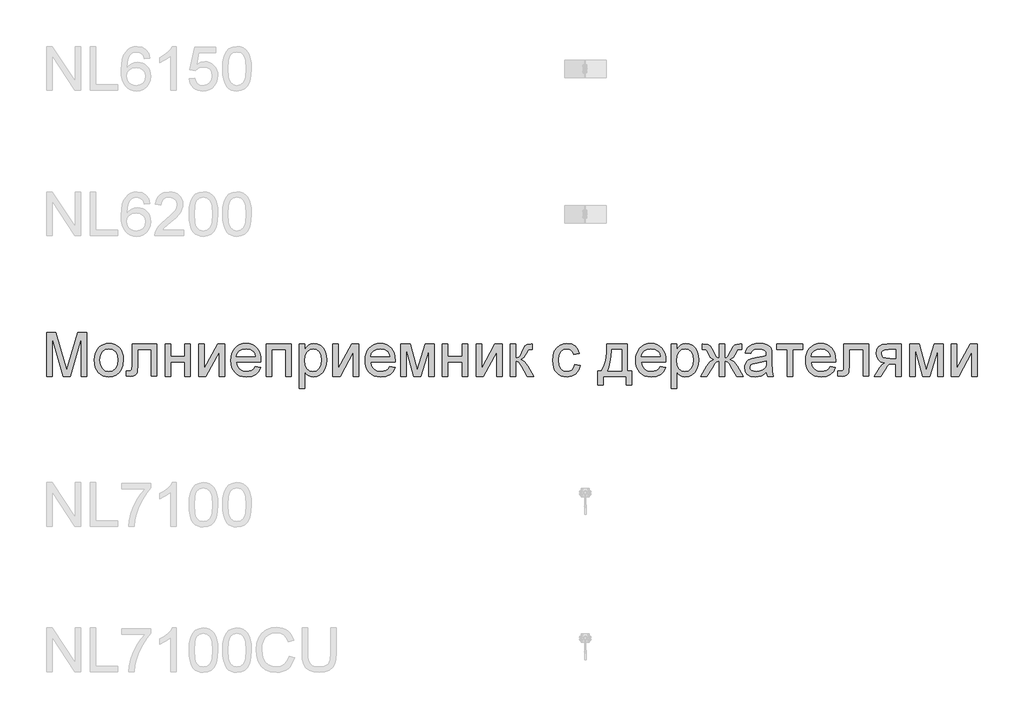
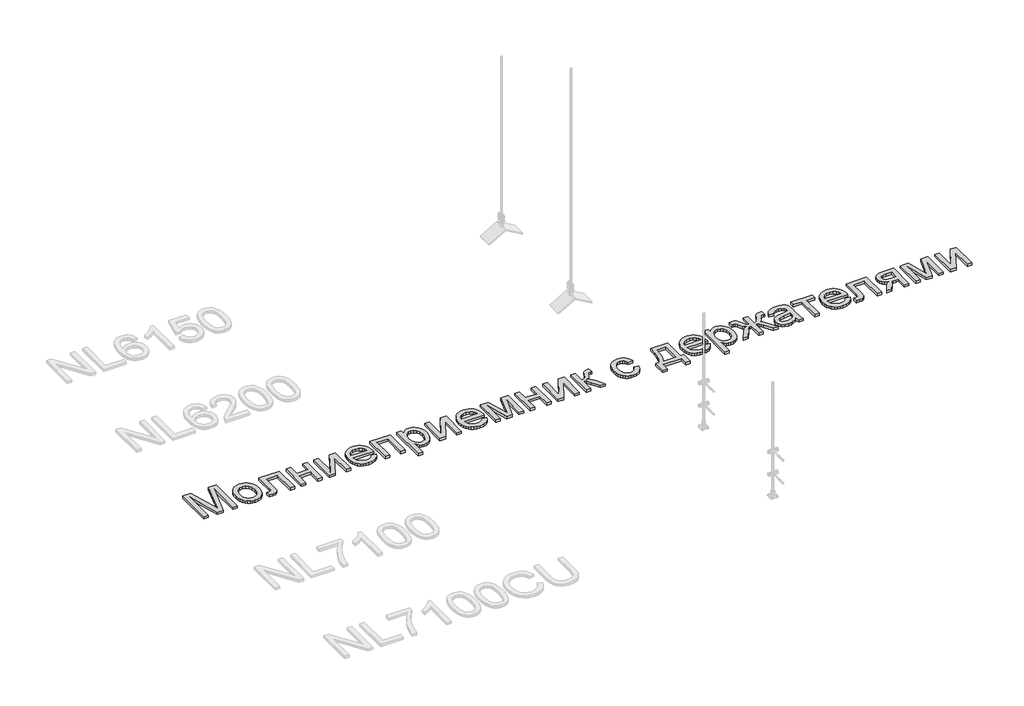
# One storey, part 68 of 124: 1 proxy.
"""IFC4 building model written with IfcOpenShell, lengths in millimetres."""

from ifc_helpers import new_model, si_unit, origin, origin_with_axes, place, context, project, spatial, polyline, outline, extrude, element, save

model = new_model("IFC4")

# Units and contexts
model_context = context("Model", 3, world=origin())
ifc_project = project(units=[si_unit("LENGTHUNIT", "METRE", prefix="MILLI")], contexts=[model_context])

# Site, building, storey
site = spatial("IfcSite", under=ifc_project)
building = spatial("IfcBuilding", under=site)
storey = spatial("IfcBuildingStorey", under=building, Name="Этаж 01", Elevation=0.0)

# Proxy
placement = place(None, origin())
element("IfcBuildingElementProxy", 1, Name="300", ObjectType="300", at=placement, inside=storey, context=model_context, shape_type="SweptSolid", body=[
    extrude(outline(polyline([(22499.8220677, -55074.498362), (22499.8220677, -54773.1294316), (22564.6428752, -54773.1294316), (22626.2998976, -54985.5444956), (22638.7343091, -55029.9110642), (22652.1987901, -54981.8656756), (22712.8257429, -54773.1294316), (22777.6465505, -54773.1294316), (22777.6465505, -55074.498362), (22739.9754341, -55074.498362), (22739.9754341, -54810.8005479), (22664.2653195, -55074.498362), (22613.2032986, -55074.498362), (22537.493184, -54810.8005479), (22537.493184, -55074.498362), (22499.8220677, -55074.498362)])), origin_with_axes(), (0.0, 0.0, 1.0), 20.0),
    extrude(outline(polyline([(22829.4443354, -54963.8394579), (22831.4814819, -54935.1768519), (22837.5929216, -54910.4781745), (22847.7786543, -54889.7434255), (22862.0386801, -54872.972605), (22876.395275, -54862.2534434), (22892.2417919, -54854.5968994), (22909.578231, -54850.002973), (22928.4045921, -54848.4716642), (22949.1876255, -54850.336366), (22967.9794977, -54855.9304716), (22984.7802086, -54865.2539809), (22999.5897581, -54878.306894), (23011.6769809, -54894.6477523), (23020.3107115, -54913.8350977), (23025.4909499, -54935.8689299), (23027.217696, -54960.7492491), (23024.1642754, -54998.8066415), (23015.0040137, -55027.7773486), (23000.0036254, -55049.4731893), (22979.4298248, -55065.7059823), (22954.9932633, -55075.8319342), (22928.4045921, -55079.2072515), (22907.318056, -55077.3494475), (22888.3514398, -55071.7760352), (22871.5047437, -55062.4870149), (22856.7779676, -55049.4823863), (22844.8195035, -55032.9828788), (22836.2777434, -55013.2092216), (22831.1526874, -54990.1614146), (22829.4443354, -54963.8394579)]), holes=[polyline([(22867.1154517, -54963.7658815), (22871.4748533, -54997.8593454), (22884.5530582, -55022.1487541), (22904.234745, -55036.6892899), (22928.4045921, -55041.5361352), (22952.4640746, -55036.6616988), (22972.1089731, -55022.0383895), (22985.187178, -54997.427084), (22989.5465797, -54962.5886591), (22985.1595869, -54929.4884766), (22971.9986085, -54905.5301616), (22952.3261188, -54890.9896258), (22928.4045921, -54886.1427805), (22904.234745, -54890.9712317), (22884.5530582, -54905.4565852), (22871.4748533, -54929.6908117), (22867.1154517, -54963.7658815)])]), origin_with_axes(), (0.0, 0.0, 1.0), 20.0),
    extrude(outline(polyline([(23088.43326, -54853.1805537), (23257.9532834, -54853.1805537), (23257.9532834, -55074.2776328), (23220.282167, -55074.2776328), (23220.282167, -54890.85167), (23126.1043763, -54890.85167), (23126.1043763, -54996.4338026), (23123.5659905, -55045.1413788), (23118.8111157, -55056.1686416), (23109.6232629, -55065.7059823), (23095.6805353, -55072.3002671), (23076.6610361, -55074.498362), (23046.0532541, -55072.5853756), (23046.0532541, -55036.8272457), (23062.9022495, -55036.8272457), (23079.9351859, -55034.5095891), (23086.7410028, -55027.1519492), (23088.43326, -54994.3000871), (23088.43326, -54853.1805537)])), origin_with_axes(), (0.0, 0.0, 1.0), 20.0),
    extrude(outline(polyline([(23314.4599578, -54853.1805537), (23352.1310741, -54853.1805537), (23352.1310741, -54937.9405654), (23451.0177544, -54937.9405654), (23451.0177544, -54853.1805537), (23488.6888707, -54853.1805537), (23488.6888707, -55074.498362), (23451.0177544, -55074.498362), (23451.0177544, -54975.6116817), (23352.1310741, -54975.6116817), (23352.1310741, -55074.498362), (23314.4599578, -55074.498362), (23314.4599578, -54853.1805537)])), origin_with_axes(), (0.0, 0.0, 1.0), 20.0),
    extrude(outline(polyline([(23545.1955452, -54853.1805537), (23582.8666615, -54853.1805537), (23582.8666615, -55021.9648131), (23675.4257715, -54853.1805537), (23724.1333476, -54853.1805537), (23724.1333476, -55074.498362), (23686.4622313, -55074.498362), (23686.4622313, -54906.7441722), (23594.4917325, -55074.498362), (23545.1955452, -55074.498362), (23545.1955452, -54853.1805537)])), origin_with_axes(), (0.0, 0.0, 1.0), 20.0),
    extrude(outline(polyline([(23935.5919185, -55008.5739085), (23972.5272708, -55013.282798), (23959.2191396, -55041.1130709), (23937.9831514, -55061.9167978), (23909.2975529, -55074.8846381), (23873.6405905, -55079.2072515), (23850.2662882, -55077.3425497), (23829.4395688, -55071.7484441), (23811.1604321, -55062.4249348), (23795.4288783, -55049.3720217), (23782.7783362, -55032.9529884), (23773.7422347, -55013.5311184), (23768.3205738, -54991.1064115), (23766.5133535, -54965.6788678), (23768.3389679, -54939.3891007), (23773.8158111, -54916.2171336), (23782.9438831, -54896.1629663), (23795.7231839, -54879.226599), (23811.413351, -54865.771315), (23829.2740219, -54856.1603979), (23849.3051965, -54850.3938476), (23871.5068749, -54848.4716642), (23892.9934827, -54850.3892491), (23912.4245498, -54856.1420038), (23929.8000763, -54865.7299283), (23945.1200621, -54879.1530226), (23957.6257507, -54896.0526017), (23966.5583854, -54916.0699808), (23971.9179662, -54939.2051598), (23973.7044932, -54965.4581386), (23973.483764, -54975.6116817), (23804.1844698, -54975.6116817), (23810.7051782, -55003.8098366), (23825.8527193, -55024.5399871), (23847.7141069, -55037.2870982), (23874.3763545, -55041.5361352), (23894.4259232, -55039.5679666), (23911.3117068, -55033.6634605), (23925.0337052, -55023.4547352), (23935.5919185, -55008.5739085)]), holes=[polyline([(23804.1844698, -54937.9405654), (23936.0333769, -54937.9405654), (23930.9382112, -54918.0381495), (23920.9502151, -54903.8011162), (23898.9876599, -54890.5573644), (23871.3597221, -54886.1427805), (23845.9666674, -54889.6652506), (23824.9698025, -54900.2326609), (23810.3740844, -54916.7045772), (23804.1844698, -54937.9405654)])]), origin_with_axes(), (0.0, 0.0, 1.0), 20.0),
    extrude(outline(polyline([(24011.3756095, -54853.1805537), (24180.8956329, -54853.1805537), (24180.8956329, -55074.498362), (24143.2245165, -55074.498362), (24143.2245165, -54890.85167), (24049.0467258, -54890.85167), (24049.0467258, -55074.498362), (24011.3756095, -55074.498362), (24011.3756095, -54853.1805537)])), origin_with_axes(), (0.0, 0.0, 1.0), 20.0),
    extrude(outline(polyline([(24237.4023073, -55159.2583737), (24237.4023073, -54853.1805537), (24275.0734236, -54853.1805537), (24275.0734236, -54890.115906), (24287.3606823, -54871.8965502), (24301.1194689, -54858.8827246), (24317.1591239, -54851.0744293), (24336.2889876, -54848.4716642), (24361.7648158, -54852.1136959), (24384.0400706, -54863.0397912), (24402.176653, -54880.5877623), (24415.2364638, -54904.0954218), (24423.1275326, -54931.8521184), (24425.7578888, -54962.1472007), (24422.7872417, -54994.3644664), (24413.8753004, -55023.1788237), (24399.3071734, -55047.1279416), (24379.3679693, -55064.7494891), (24356.1454183, -55075.5928109), (24331.7272509, -55079.2072515), (24314.409206, -55076.7884274), (24298.9489651, -55069.5319551), (24285.7144103, -55058.5782687), (24275.0734236, -55045.0678024), (24275.0734236, -55159.2583737), (24237.4023073, -55159.2583737)]), holes=[polyline([(24275.0734236, -54965.6052914), (24279.1477167, -54999.3768586), (24291.370596, -55022.9948827), (24309.4060108, -55036.9008221), (24330.9179105, -55041.5361352), (24352.7792981, -55036.7352752), (24371.2745654, -55022.3326951), (24383.8837207, -54997.8501483), (24388.0867725, -54962.8093883), (24383.9848883, -54929.2217621), (24371.6792356, -54905.2726442), (24353.6714119, -54890.9252464), (24332.4630149, -54886.1427805), (24311.1718444, -54891.2287491), (24292.474242, -54906.4866548), (24279.4236282, -54931.4382511), (24275.0734236, -54965.6052914)])]), origin_with_axes(), (0.0, 0.0, 1.0), 20.0),
    extrude(outline(polyline([(24468.1378947, -54853.1805537), (24505.809011, -54853.1805537), (24505.809011, -55021.9648131), (24598.368121, -54853.1805537), (24647.0756971, -54853.1805537), (24647.0756971, -55074.498362), (24609.4045808, -55074.498362), (24609.4045808, -54906.7441722), (24517.434082, -55074.498362), (24468.1378947, -55074.498362), (24468.1378947, -54853.1805537)])), origin_with_axes(), (0.0, 0.0, 1.0), 20.0),
    extrude(outline(polyline([(24858.534268, -55008.5739085), (24895.4696203, -55013.282798), (24882.1614891, -55041.1130709), (24860.9255009, -55061.9167978), (24832.2399024, -55074.8846381), (24796.58294, -55079.2072515), (24773.2086377, -55077.3425497), (24752.3819183, -55071.7484441), (24734.1027816, -55062.4249348), (24718.3712278, -55049.3720217), (24705.7206857, -55032.9529884), (24696.6845842, -55013.5311184), (24691.2629233, -54991.1064115), (24689.455703, -54965.6788678), (24691.2813174, -54939.3891007), (24696.7581606, -54916.2171336), (24705.8862326, -54896.1629663), (24718.6655334, -54879.226599), (24734.3557005, -54865.771315), (24752.2163714, -54856.1603979), (24772.247546, -54850.3938476), (24794.4492244, -54848.4716642), (24815.9358322, -54850.3892491), (24835.3668993, -54856.1420038), (24852.7424258, -54865.7299283), (24868.0624116, -54879.1530226), (24880.5681002, -54896.0526017), (24889.5007349, -54916.0699808), (24894.8603157, -54939.2051598), (24896.6468427, -54965.4581386), (24896.4261135, -54975.6116817), (24727.1268193, -54975.6116817), (24733.6475277, -55003.8098366), (24748.7950688, -55024.5399871), (24770.6564564, -55037.2870982), (24797.318704, -55041.5361352), (24817.3682727, -55039.5679666), (24834.2540563, -55033.6634605), (24847.9760547, -55023.4547352), (24858.534268, -55008.5739085)]), holes=[polyline([(24727.1268193, -54937.9405654), (24858.9757264, -54937.9405654), (24853.8805607, -54918.0381495), (24843.8925646, -54903.8011162), (24821.9300094, -54890.5573644), (24794.3020716, -54886.1427805), (24768.9090169, -54889.6652506), (24747.912152, -54900.2326609), (24733.3164339, -54916.7045772), (24727.1268193, -54937.9405654)])]), origin_with_axes(), (0.0, 0.0, 1.0), 20.0),
    extrude(outline(polyline([(24934.317959, -54853.1805537), (24999.1387665, -54853.1805537), (25049.0971415, -55030.3525226), (25102.9550656, -54853.1805537), (25165.0535464, -54853.1805537), (25165.0535464, -55074.498362), (25127.38243, -55074.498362), (25127.38243, -54896.2963235), (25073.2302004, -55074.498362), (25023.7868602, -55074.498362), (24971.9890753, -54887.7614613), (24971.9890753, -55074.498362), (24934.317959, -55074.498362), (24934.317959, -54853.1805537)])), origin_with_axes(), (0.0, 0.0, 1.0), 20.0),
    extrude(outline(polyline([(25221.5602208, -54853.1805537), (25259.2313371, -54853.1805537), (25259.2313371, -54937.9405654), (25358.1180174, -54937.9405654), (25358.1180174, -54853.1805537), (25395.7891337, -54853.1805537), (25395.7891337, -55074.498362), (25358.1180174, -55074.498362), (25358.1180174, -54975.6116817), (25259.2313371, -54975.6116817), (25259.2313371, -55074.498362), (25221.5602208, -55074.498362), (25221.5602208, -54853.1805537)])), origin_with_axes(), (0.0, 0.0, 1.0), 20.0),
    extrude(outline(polyline([(25452.2958082, -54853.1805537), (25489.9669245, -54853.1805537), (25489.9669245, -55021.9648131), (25582.5260345, -54853.1805537), (25631.2336106, -54853.1805537), (25631.2336106, -55074.498362), (25593.5624943, -55074.498362), (25593.5624943, -54906.7441722), (25501.5919955, -55074.498362), (25452.2958082, -55074.498362), (25452.2958082, -54853.1805537)])), origin_with_axes(), (0.0, 0.0, 1.0), 20.0),
    extrude(outline(polyline([(25687.7402851, -54853.1805537), (25725.4114014, -54853.1805537), (25725.4114014, -54947.3583445), (25740.7336865, -54945.6660873), (25750.6481063, -54940.5893158), (25759.4220919, -54927.3455639), (25771.3230744, -54901.1523659), (25788.5031636, -54867.1232813), (25803.6599018, -54856.0500333), (25831.2142632, -54853.1805537), (25838.4247503, -54853.1805537), (25838.4247503, -54891.0723992), (25828.2712073, -54890.85167), (25809.8771075, -54894.8247956), (25796.9276613, -54919.620042), (25781.7341349, -54946.4386395), (25760.4337673, -54959.5720267), (25772.3715381, -54964.874126), (25784.1989442, -54974.2321242), (25807.5226627, -55005.1158177), (25847.8425294, -55074.498362), (25805.0210652, -55074.498362), (25765.5105389, -55006.5873457), (25745.6449111, -54977.8557619), (25736.3558908, -54972.6410346), (25725.4114014, -54970.9027922), (25725.4114014, -55074.498362), (25687.7402851, -55074.498362), (25687.7402851, -54853.1805537)])), origin_with_axes(), (0.0, 0.0, 1.0), 20.0),
    extrude(outline(polyline([(26130.3759017, -54994.4472399), (26168.047018, -54999.1561294), (26157.543987, -55032.6609821), (26137.807118, -55057.9804604), (26110.694215, -55073.9005538), (26078.063082, -55079.2072515), (26056.9351591, -55077.3563453), (26037.9915357, -55071.8036264), (26021.2322115, -55062.5490949), (26006.6571867, -55049.5927509), (25994.859671, -55033.1783162), (25986.432874, -55013.5495125), (25981.3767959, -54990.7063398), (25979.6914365, -54964.6487982), (25982.5701131, -54931.1255514), (25991.2061429, -54902.0720709), (26005.7374817, -54878.6103966), (26026.3020853, -54861.8625688), (26050.9041937, -54851.8193903), (26077.5480472, -54848.4716642), (26109.3790368, -54853.0701891), (26134.8272738, -54866.8657639), (26153.0834178, -54889.1226246), (26163.3381285, -54919.1050072), (26125.6670122, -54923.8138968), (26118.8336041, -54907.3787686), (26108.1926174, -54895.5973477), (26094.3326632, -54888.5064223), (26077.8423528, -54886.1427805), (26053.4977618, -54890.7964877), (26034.17476, -54904.7576094), (26021.5656046, -54928.7803037), (26017.3625528, -54963.6187287), (26021.4736341, -54998.9262031), (26033.806878, -55023.0316709), (26052.7803919, -55036.9100191), (26076.8122832, -55041.5361352), (26096.319226, -55038.6482616), (26112.3128957, -55029.9846406), (26123.9471638, -55015.3245431), (26130.3759017, -54994.4472399)])), origin_with_axes(), (0.0, 0.0, 1.0), 20.0),
    extrude(outline(polyline([(26351.69371, -54853.1805537), (26492.9603961, -54853.1805537), (26492.9603961, -55036.8272457), (26521.2137334, -55036.8272457), (26521.2137334, -55135.713926), (26483.5426171, -55135.713926), (26483.5426171, -55074.498362), (26328.1492623, -55074.498362), (26328.1492623, -55135.713926), (26290.478146, -55135.713926), (26290.478146, -55036.8272457), (26314.0225937, -55036.8272457), (26331.1383035, -55005.897567), (26343.1220595, -54964.979892), (26349.9738617, -54914.074221), (26351.69371, -54853.1805537)]), holes=[polyline([(26384.6559368, -54890.85167), (26381.565728, -54936.9748752), (26375.8267689, -54976.6785395), (26367.4390594, -55009.962663), (26356.4025995, -55036.8272457), (26455.2892798, -55036.8272457), (26455.2892798, -54890.85167), (26384.6559368, -54890.85167)])]), origin_with_axes(), (0.0, 0.0, 1.0), 20.0),
    extrude(outline(polyline([(26718.5456356, -55008.5739085), (26755.4809879, -55013.282798), (26742.1728567, -55041.1130709), (26720.9368686, -55061.9167978), (26692.25127, -55074.8846381), (26656.5943076, -55079.2072515), (26633.2200053, -55077.3425497), (26612.3932859, -55071.7484441), (26594.1141492, -55062.4249348), (26578.3825954, -55049.3720217), (26565.7320533, -55032.9529884), (26556.6959518, -55013.5311184), (26551.2742909, -54991.1064115), (26549.4670706, -54965.6788678), (26551.292685, -54939.3891007), (26556.7695282, -54916.2171336), (26565.8976002, -54896.1629663), (26578.676901, -54879.226599), (26594.3670681, -54865.771315), (26612.227739, -54856.1603979), (26632.2589136, -54850.3938476), (26654.460592, -54848.4716642), (26675.9471998, -54850.3892491), (26695.3782669, -54856.1420038), (26712.7537934, -54865.7299283), (26728.0737793, -54879.1530226), (26740.5794678, -54896.0526017), (26749.5121025, -54916.0699808), (26754.8716833, -54939.2051598), (26756.6582103, -54965.4581386), (26756.4374811, -54975.6116817), (26587.1381869, -54975.6116817), (26593.6588953, -55003.8098366), (26608.8064364, -55024.5399871), (26630.667824, -55037.2870982), (26657.3300716, -55041.5361352), (26677.3796403, -55039.5679666), (26694.2654239, -55033.6634605), (26707.9874223, -55023.4547352), (26718.5456356, -55008.5739085)]), holes=[polyline([(26587.1381869, -54937.9405654), (26718.987094, -54937.9405654), (26713.8919283, -54918.0381495), (26703.9039322, -54903.8011162), (26681.9413771, -54890.5573644), (26654.3134392, -54886.1427805), (26628.9203845, -54889.6652506), (26607.9235196, -54900.2326609), (26593.3278015, -54916.7045772), (26587.1381869, -54937.9405654)])]), origin_with_axes(), (0.0, 0.0, 1.0), 20.0),
    extrude(outline(polyline([(26794.3293266, -55159.2583737), (26794.3293266, -54853.1805537), (26832.0004429, -54853.1805537), (26832.0004429, -54890.115906), (26844.2877015, -54871.8965502), (26858.0464882, -54858.8827246), (26874.0861431, -54851.0744293), (26893.2160069, -54848.4716642), (26918.6918351, -54852.1136959), (26940.9670899, -54863.0397912), (26959.1036722, -54880.5877623), (26972.1634831, -54904.0954218), (26980.0545519, -54931.8521184), (26982.6849081, -54962.1472007), (26979.714261, -54994.3644664), (26970.8023197, -55023.1788237), (26956.2341927, -55047.1279416), (26936.2949885, -55064.7494891), (26913.0724376, -55075.5928109), (26888.6542702, -55079.2072515), (26871.3362252, -55076.7884274), (26855.8759844, -55069.5319551), (26842.6414296, -55058.5782687), (26832.0004429, -55045.0678024), (26832.0004429, -55159.2583737), (26794.3293266, -55159.2583737)]), holes=[polyline([(26832.0004429, -54965.6052914), (26836.074736, -54999.3768586), (26848.2976153, -55022.9948827), (26866.3330301, -55036.9008221), (26887.8449298, -55041.5361352), (26909.7063173, -55036.7352752), (26928.2015846, -55022.3326951), (26940.81074, -54997.8501483), (26945.0137918, -54962.8093883), (26940.9119076, -54929.2217621), (26928.6062548, -54905.2726442), (26910.5984312, -54890.9252464), (26889.3900341, -54886.1427805), (26868.0988637, -54891.2287491), (26849.4012613, -54906.4866548), (26836.3506475, -54931.4382511), (26832.0004429, -54965.6052914)])]), origin_with_axes(), (0.0, 0.0, 1.0), 20.0),
    extrude(outline(polyline([(27161.6227106, -54853.1805537), (27161.6227106, -54947.3583445), (27174.9124476, -54945.4177669), (27183.5852657, -54939.5960344), (27204.3705984, -54899.3129559), (27217.3384387, -54874.2050097), (27229.1658449, -54860.6853464), (27243.5316368, -54855.0567519), (27264.40894, -54853.1805537), (27279.344949, -54853.1805537), (27279.344949, -54891.0723992), (27268.9706768, -54890.85167), (27249.5465074, -54894.7512192), (27236.0820264, -54919.1785836), (27220.4470416, -54945.9603929), (27198.1166045, -54959.5720267), (27210.5096292, -54964.874126), (27222.7463041, -54974.2321242), (27246.7506043, -55005.1158177), (27288.7627281, -55074.498362), (27245.5733819, -55074.498362), (27204.2234456, -55006.0723109), (27192.9202713, -54988.1104725), (27183.1438073, -54977.6350327), (27173.2569787, -54972.5858523), (27161.6227106, -54970.9027922), (27161.6227106, -55074.498362), (27123.9515943, -55074.498362), (27123.9515943, -54970.9027922), (27112.4092967, -54972.5490641), (27102.5040739, -54977.4878799), (27092.6540335, -54987.8897433), (27081.2772828, -55005.9251581), (27039.9273466, -55074.498362), (26996.8115767, -55074.498362), (27038.6765478, -55005.1158177), (27062.864789, -54974.2321242), (27075.1658432, -54964.874126), (27087.6048531, -54959.5720267), (27073.2206671, -54952.3615396), (27063.9132527, -54944.5624413), (27043.6061665, -54905.9348318), (27033.6733527, -54893.2061148), (27017.4129685, -54890.6309408), (27006.2293558, -54890.85167), (27006.2293558, -54853.1805537), (27011.8947385, -54853.1805537), (27044.9305417, -54855.5349985), (27062.0738427, -54865.5413887), (27081.2772828, -54899.3129559), (27101.8418864, -54939.338517), (27110.5147044, -54945.3533876), (27123.9515943, -54947.3583445), (27123.9515943, -54853.1805537), (27161.6227106, -54853.1805537)])), origin_with_axes(), (0.0, 0.0, 1.0), 20.0),
    extrude(outline(polyline([(27448.8649724, -55046.2450248), (27430.8663458, -55061.6776745), (27412.3342903, -55071.7760352), (27392.8457416, -55077.3494475), (27371.9776354, -55079.2072515), (27340.4961337, -55074.7374853), (27317.2735827, -55061.3281866), (27302.9537761, -55040.9659181), (27298.1805072, -55015.6372428), (27299.983129, -55000.0206521), (27305.3909943, -54985.8388012), (27313.7327185, -54973.6986953), (27324.336917, -54964.2073398), (27350.7140561, -54951.8465048), (27383.3084009, -54946.1811221), (27421.8256458, -54940.2214338), (27448.6442432, -54933.2316759), (27448.8649724, -54924.8439664), (27446.2714043, -54908.0317592), (27438.4907001, -54897.0320875), (27421.0898818, -54888.8651072), (27396.8464583, -54886.1427805), (27374.4056566, -54887.9545993), (27358.7338836, -54893.3900558), (27348.0469116, -54903.4424313), (27340.560513, -54919.1050072), (27302.8893967, -54914.3961177), (27309.4284992, -54893.794726), (27319.1865691, -54877.6079182), (27333.0741144, -54865.228689), (27352.0016431, -54856.0500333), (27375.1506176, -54850.3662564), (27401.7025006, -54848.4716642), (27427.1691317, -54850.1455272), (27447.3566562, -54855.1671165), (27462.5777738, -54862.7178944), (27473.1451841, -54871.9793237), (27480.1533361, -54883.4296508), (27484.6966787, -54897.5471223), (27486.5360887, -54930.5093491), (27486.5360887, -54977.3775153), (27488.4490751, -55042.8237222), (27495.9538678, -55074.498362), (27458.2827515, -55074.498362), (27448.8649724, -55046.2450248)]), holes=[polyline([(27448.8649724, -54970.9027922), (27388.0908668, -54982.4542868), (27355.680463, -54988.5611279), (27341.0019714, -54998.4939418), (27335.8516235, -55012.9884924), (27338.6567237, -55024.1904992), (27347.0720243, -55033.3691549), (27360.9135844, -55039.4943902), (27379.9974629, -55041.5361352), (27400.2309726, -55039.282858), (27418.1100376, -55032.5230264), (27432.6045882, -55022.5626213), (27442.6845549, -55010.707624), (27447.1543211, -54998.4939418), (27448.6442432, -54981.57137), (27448.8649724, -54970.9027922)])]), origin_with_axes(), (0.0, 0.0, 1.0), 20.0),
    extrude(outline(polyline([(27519.4983155, -54853.1805537), (27698.4361179, -54853.1805537), (27698.4361179, -54890.85167), (27627.8027749, -54890.85167), (27627.8027749, -55074.498362), (27590.1316586, -55074.498362), (27590.1316586, -54890.85167), (27519.4983155, -54890.85167), (27519.4983155, -54853.1805537)])), origin_with_axes(), (0.0, 0.0, 1.0), 20.0),
    extrude(outline(polyline([(27886.3502411, -55008.5739085), (27923.2855934, -55013.282798), (27909.9774622, -55041.1130709), (27888.741474, -55061.9167978), (27860.0558755, -55074.8846381), (27824.3989131, -55079.2072515), (27801.0246108, -55077.3425497), (27780.1978914, -55071.7484441), (27761.9187547, -55062.4249348), (27746.1872009, -55049.3720217), (27733.5366588, -55032.9529884), (27724.5005573, -55013.5311184), (27719.0788964, -54991.1064115), (27717.2716761, -54965.6788678), (27719.0972905, -54939.3891007), (27724.5741337, -54916.2171336), (27733.7022057, -54896.1629663), (27746.4815065, -54879.226599), (27762.1716736, -54865.771315), (27780.0323445, -54856.1603979), (27800.0635191, -54850.3938476), (27822.2651975, -54848.4716642), (27843.7518053, -54850.3892491), (27863.1828724, -54856.1420038), (27880.5583989, -54865.7299283), (27895.8783847, -54879.1530226), (27908.3840733, -54896.0526017), (27917.316708, -54916.0699808), (27922.6762888, -54939.2051598), (27924.4628158, -54965.4581386), (27924.2420866, -54975.6116817), (27754.9427924, -54975.6116817), (27761.4635008, -55003.8098366), (27776.6110419, -55024.5399871), (27798.4724295, -55037.2870982), (27825.1346771, -55041.5361352), (27845.1842458, -55039.5679666), (27862.0700294, -55033.6634605), (27875.7920278, -55023.4547352), (27886.3502411, -55008.5739085)]), holes=[polyline([(27754.9427924, -54937.9405654), (27886.7916995, -54937.9405654), (27881.6965338, -54918.0381495), (27871.7085377, -54903.8011162), (27849.7459826, -54890.5573644), (27822.1180447, -54886.1427805), (27796.72499, -54889.6652506), (27775.7281251, -54900.2326609), (27761.132407, -54916.7045772), (27754.9427924, -54937.9405654)])]), origin_with_axes(), (0.0, 0.0, 1.0), 20.0),
    extrude(outline(polyline([(27980.9694902, -54853.1805537), (28150.4895136, -54853.1805537), (28150.4895136, -55074.2776328), (28112.8183973, -55074.2776328), (28112.8183973, -54890.85167), (28018.6406065, -54890.85167), (28018.6406065, -54996.4338026), (28016.1022208, -55045.1413788), (28011.347346, -55056.1686416), (28002.1594932, -55065.7059823), (27988.2167655, -55072.3002671), (27969.1972664, -55074.498362), (27938.5894844, -55072.5853756), (27938.5894844, -55036.8272457), (27955.4384798, -55036.8272457), (27972.4714161, -55034.5095891), (27979.2772331, -55027.1519492), (27980.9694902, -54994.3000871), (27980.9694902, -54853.1805537)])), origin_with_axes(), (0.0, 0.0, 1.0), 20.0),
    extrude(outline(polyline([(28376.5162114, -54853.1805537), (28376.5162114, -55074.498362), (28338.8450951, -55074.498362), (28338.8450951, -54989.7383503), (28318.3172798, -54989.7383503), (28290.3582482, -54994.5208163), (28279.1930296, -55004.9502708), (28264.0914737, -55026.6737026), (28234.0723029, -55074.498362), (28190.5150747, -55074.498362), (28228.3333438, -55014.018562), (28245.0351864, -54992.3135243), (28260.4126538, -54982.675016), (28234.6609141, -54974.7839472), (28216.5611199, -54959.7927559), (28205.8557539, -54939.8535518), (28202.2872985, -54917.1184445), (28207.161735, -54891.3299166), (28221.7850443, -54870.9124659), (28245.6421917, -54857.6135317), (28278.2181423, -54853.1805537), (28376.5162114, -54853.1805537)]), holes=[polyline([(28338.8450951, -54890.85167), (28289.1810258, -54890.85167), (28263.5304537, -54893.0313708), (28248.9715237, -54899.5704733), (28242.2116921, -54909.0342376), (28239.9584148, -54919.987924), (28243.2785498, -54934.3445189), (28253.2389549, -54944.3049239), (28271.6422517, -54950.1266565), (28300.291062, -54952.067234), (28338.8450951, -54952.067234), (28338.8450951, -54890.85167)])]), origin_with_axes(), (0.0, 0.0, 1.0), 20.0),
    extrude(outline(polyline([(28433.0228859, -54853.1805537), (28497.8436935, -54853.1805537), (28547.8020684, -55030.3525226), (28601.6599925, -54853.1805537), (28663.7584733, -54853.1805537), (28663.7584733, -55074.498362), (28626.087357, -55074.498362), (28626.087357, -54896.2963235), (28571.9351273, -55074.498362), (28522.4917871, -55074.498362), (28470.6940022, -54887.7614613), (28470.6940022, -55074.498362), (28433.0228859, -55074.498362), (28433.0228859, -54853.1805537)])), origin_with_axes(), (0.0, 0.0, 1.0), 20.0),
    extrude(outline(polyline([(28720.2651477, -54853.1805537), (28757.936264, -54853.1805537), (28757.936264, -55021.9648131), (28850.495374, -54853.1805537), (28899.2029502, -54853.1805537), (28899.2029502, -55074.498362), (28861.5318339, -55074.498362), (28861.5318339, -54906.7441722), (28769.5613351, -55074.498362), (28720.2651477, -55074.498362), (28720.2651477, -54853.1805537)])), origin_with_axes(), (0.0, 0.0, 1.0), 20.0),
])

save(model, "model.ifc")
